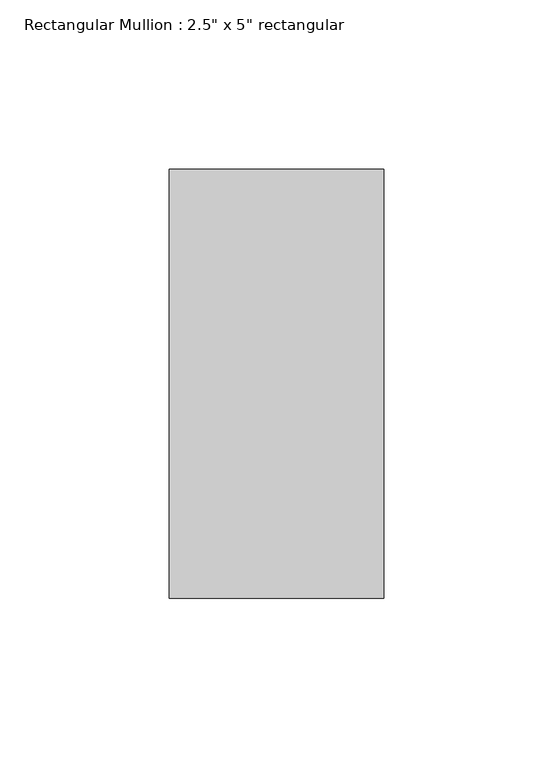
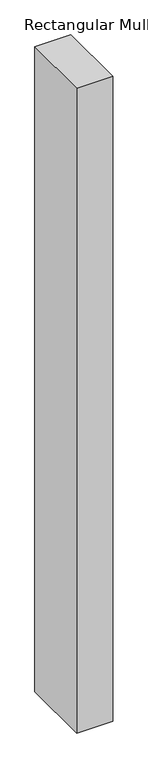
"""IFC4 building model written with IfcOpenShell, lengths in millimetres: member geometry."""

from ifc_helpers import new_model, si_unit, frame, origin, place, context, project, spatial, polyline, outline, extrude, source, transform, mapped, element, save


def member_e9c7f4a4(model_context):
    return source(origin(), model_context, "Body", "SweptSolid", [
        extrude(outline(polyline([(0.0, 63.5), (0.0, -63.5), (-63.5, -63.5), (-63.5, 63.5), (0.0, 63.5)])), frame((0.0, 0.0, -1200.15), z_axis=(0.0, 0.0, 1.0), x_axis=(1.0, 0.0, 0.0)), (0.0, 0.0, 1.0), 1200.15),
    ])


if __name__ == "__main__":
    model = new_model("IFC4")
    model_context = context("Model", 3, world=origin())
    ifc_project = project(units=[si_unit("LENGTHUNIT", "METRE", prefix="MILLI")], contexts=[model_context])
    site = spatial("IfcSite", under=ifc_project)
    building = spatial("IfcBuilding", under=site)
    placement = place(None, origin())
    member_shape = member_e9c7f4a4(model_context)
    element("IfcMember", 1, ObjectType="Rectangular Mullion : 2.5\" x 5\" rectangular", at=placement, inside=building, context=model_context, shape_type="MappedRepresentation", body=[
        mapped(member_shape, transform((0.0, 0.0, 0.0), x_axis=(1.0, 0.0, 0.0), y_axis=(0.0, 1.0, 0.0), z_axis=(0.0, 0.0, 1.0))),
    ])
    save(model, "model.ifc")
